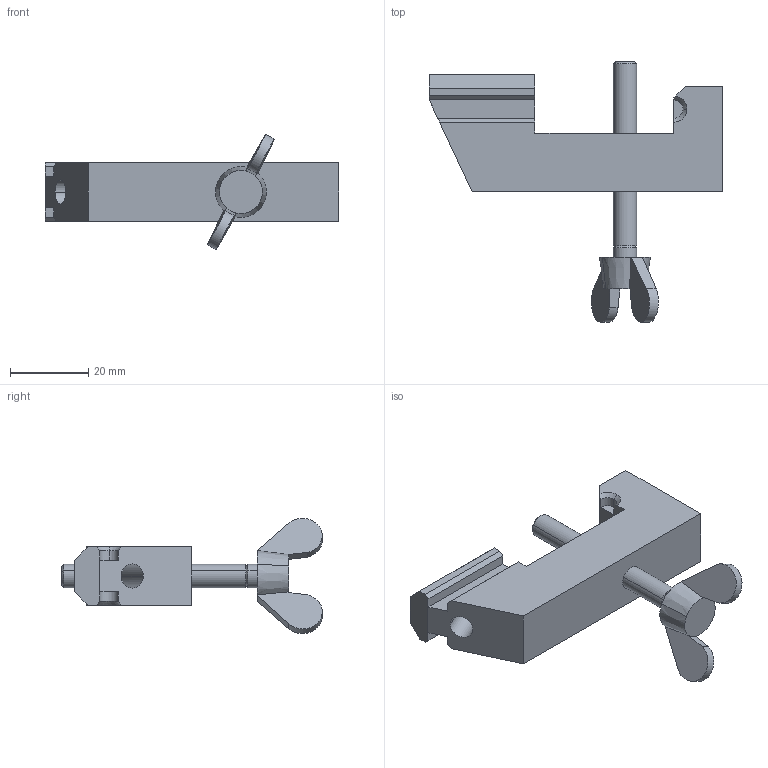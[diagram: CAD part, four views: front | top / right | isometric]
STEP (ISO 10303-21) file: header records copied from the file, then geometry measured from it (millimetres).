
FILE_DESCRIPTION (( 'STEP AP203' ), '1' );
FILE_NAME ('50251_BOSCH.STEP', '2018-10-04T12:01:50', ( '' ), ( '' ), 'SwSTEP 2.0', 'SolidWorks 2017', '' );
FILE_SCHEMA (( 'CONFIG_CONTROL_DESIGN' ));
Length unit declared in the file: millimetre
Products named in the file (3): 37389-01-0000-00; 37159-01-0000-00; 50251_BOSCH
Assembly tree (2 placements, depth 2):
  50251_BOSCH
    37389-01-0000-00
    37159-01-0000-00
Bounding box: 75 x 66.54 x 29.48 mm (x, y, z)
Volume: 23743.8 mm3; surface area: 9236 mm2
Topology: 2 solids, 2 shells, 70 faces, 181 edges, 117 vertices
Faces by surface type: plane 44, cone 13, cylinder 13
Entity records: 2447 total; most frequent: CARTESIAN_POINT 433, ORIENTED_EDGE 362, DIRECTION 354, EDGE_CURVE 181, VECTOR 126, LINE 126, VERTEX_POINT 117, AXIS2_PLACEMENT_3D 114
